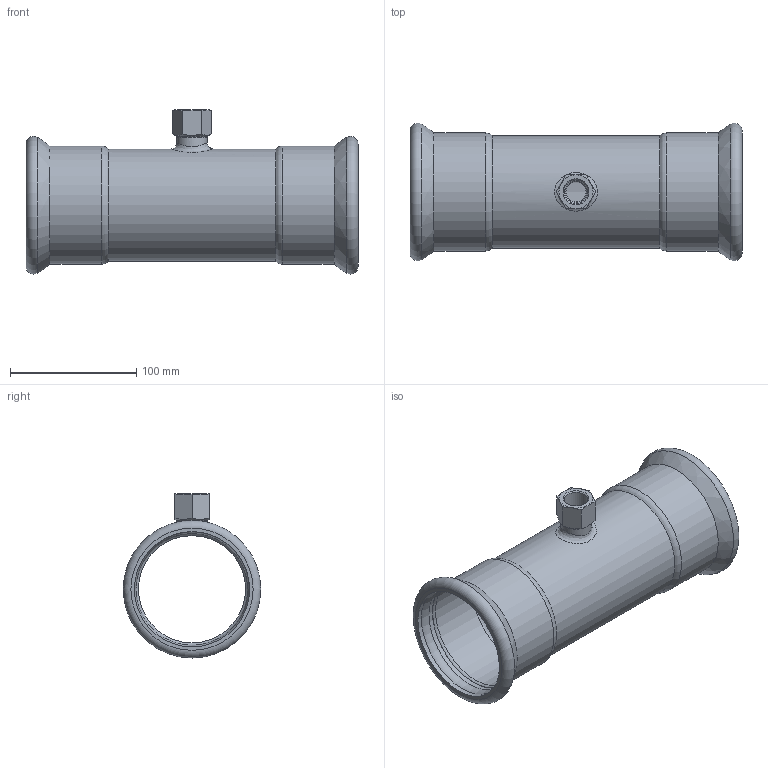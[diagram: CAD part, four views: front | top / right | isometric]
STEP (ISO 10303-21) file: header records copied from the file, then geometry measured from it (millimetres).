
FILE_DESCRIPTION(/* description */ ('TEE CON DERIVAZIONE FILETTATA FEMMINA 88,9x1/2"x88,9'),/* implementation_level */ '2;1');
FILE_NAME(/* name */ 'T:\A_ARTICOLI\ARTICOLI PRODOTTI_WEB\Articoli_STEELPRES_WEB\Temporary Step\389102088_Steelpres.ipt.step',/* time_stamp */ '2016-01-20T11:56:58+01:00',/* author */ ('Ghirlinghelli Diego'),/* organization */ (''),/* preprocessor_version */ 'ST-DEVELOPER v15.2',/* originating_system */ 'Autodesk Inventor 2014',/* authorisation */ 'R.M. S.p.A. si riserva a termini di legge la proprietà del presente disegno con divieto di riprodurlo o comunicarlo a terzi senza sua autorizzazione scritta');
FILE_SCHEMA (('AUTOMOTIVE_DESIGN { 1 0 10303 214 3 1 1 }'));
Length unit declared in the file: millimetre
Products named in the file (1): 389102088_Steelpres
Bounding box: 263 x 108.99 x 129.94 mm (x, y, z)
Volume: 213686.9 mm3; surface area: 159538.6 mm2
Topology: 1 solids, 1 shells, 53 faces, 123 edges, 75 vertices
Faces by surface type: cylinder 15, cone 12, torus 11, plane 11, bspline 4
Full cylindrical faces by diameter (mm): 16 x1, 18.631 x1, 20 x1, 21 x1, 24 x1, 84.9 x1, 88.9 x1, 89.5 x2, 91.3 x4, 93.5 x2
Entity records: 1603 total; most frequent: CARTESIAN_POINT 590, DIRECTION 204, ORIENTED_EDGE 158, AXIS2_PLACEMENT_3D 99, EDGE_LOOP 92, EDGE_CURVE 79, VERTEX_POINT 63, ADVANCED_FACE 53
